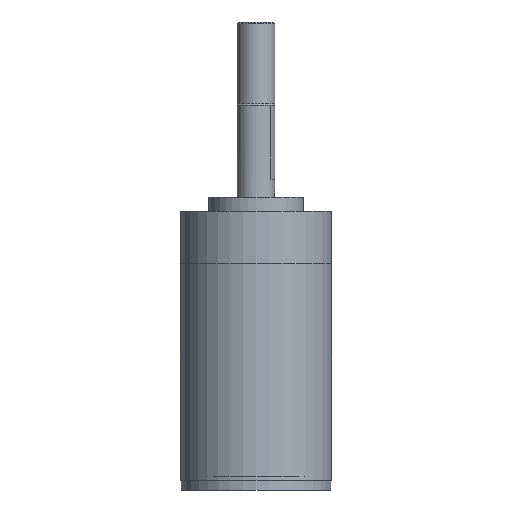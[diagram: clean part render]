
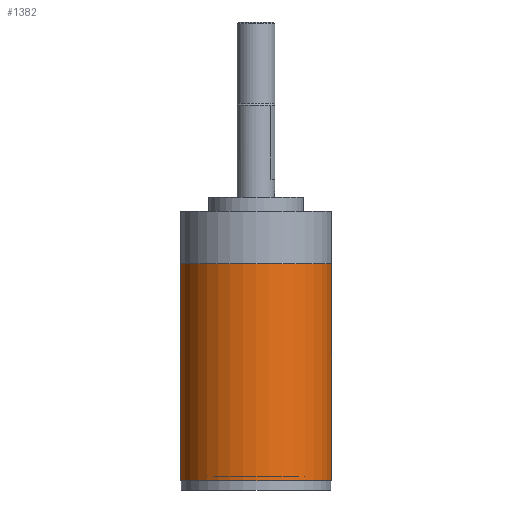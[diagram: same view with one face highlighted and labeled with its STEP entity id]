
A CAD part, left-side view. The second image highlights one B-rep face of the part: STEP entity #1382.
In plain terms, the highlighted cylindrical face has radius 8 mm (diameter 16 mm), a full revolution.
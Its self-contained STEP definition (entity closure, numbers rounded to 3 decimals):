
#1297=CYLINDRICAL_SURFACE('',#4201,8.);
#1382=ADVANCED_FACE('',(#1760,#1761),#1297,.T.);
#1760=FACE_BOUND('',#2020,.T.);
#1761=FACE_BOUND('',#2021,.T.);
#2020=EDGE_LOOP('',(#2415));
#2021=EDGE_LOOP('',(#2416));
#2415=ORIENTED_EDGE('',*,*,#3588,.F.);
#2416=ORIENTED_EDGE('',*,*,#3597,.T.);
#3257=VERTEX_POINT('',#5330);
#3266=VERTEX_POINT('',#5353);
#3588=EDGE_CURVE('',#3257,#3257,#4018,.T.);
#3597=EDGE_CURVE('',#3266,#3266,#4027,.T.);
#4018=CIRCLE('',#4185,8.);
#4027=CIRCLE('',#4199,8.);
#4185=AXIS2_PLACEMENT_3D('',#5329,#4557,#4558);
#4199=AXIS2_PLACEMENT_3D('',#5352,#4585,#4586);
#4201=AXIS2_PLACEMENT_3D('',#5355,#4589,#4590);
#4557=DIRECTION('',(0.,0.,-1.));
#4558=DIRECTION('',(1.,0.,0.));
#4585=DIRECTION('',(0.,0.,-1.));
#4586=DIRECTION('',(1.,0.,0.));
#4589=DIRECTION('',(0.,0.,1.));
#4590=DIRECTION('',(1.,0.,0.));
#5329=CARTESIAN_POINT('',(0.,0.,1.));
#5330=CARTESIAN_POINT('',(8.,0.,1.));
#5352=CARTESIAN_POINT('',(0.,0.,23.899));
#5353=CARTESIAN_POINT('',(8.,0.,23.899));
#5355=CARTESIAN_POINT('',(0.,0.,23.9));
